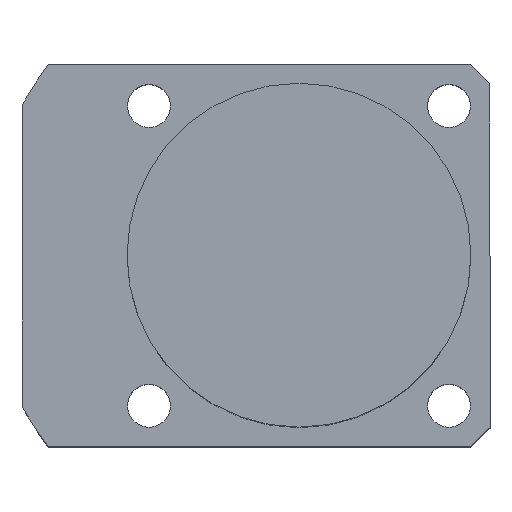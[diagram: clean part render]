
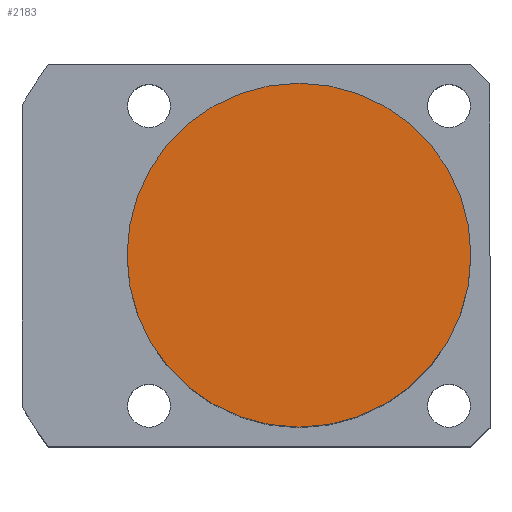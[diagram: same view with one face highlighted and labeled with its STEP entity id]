
A CAD part, top view. The second image highlights one B-rep face of the part: STEP entity #2183.
In plain terms, the highlighted planar face has unit normal (0, 0, 1).
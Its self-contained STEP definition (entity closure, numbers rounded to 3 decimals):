
#67 = VERTEX_POINT ( 'NONE', #732 ) ;
#342 = PLANE ( 'NONE',  #1033 ) ;
#369 = VERTEX_POINT ( 'NONE', #3731 ) ;
#378 = DIRECTION ( 'NONE',  ( 0., 0., 1. ) ) ;
#732 = CARTESIAN_POINT ( 'NONE',  ( -18., 0., 48.5 ) ) ;
#779 = EDGE_CURVE ( 'NONE', #369, #67, #897, .T. ) ;
#897 = CIRCLE ( 'NONE', #3293, 18. ) ;
#1033 = AXIS2_PLACEMENT_3D ( 'NONE', #2208, #1284, #3462 ) ;
#1256 = CIRCLE ( 'NONE', #2257, 18. ) ;
#1284 = DIRECTION ( 'NONE',  ( 0., 0., 1. ) ) ;
#1621 = ORIENTED_EDGE ( 'NONE', *, *, #3139, .T. ) ;
#1711 = DIRECTION ( 'NONE',  ( 1., 0., 0. ) ) ;
#1717 = EDGE_LOOP ( 'NONE', ( #1621, #3399 ) ) ;
#2183 = ADVANCED_FACE ( 'NONE', ( #3474 ), #342, .T. ) ;
#2208 = CARTESIAN_POINT ( 'NONE',  ( 0., 0., 48.5 ) ) ;
#2222 = CARTESIAN_POINT ( 'NONE',  ( 0., 0., 48.5 ) ) ;
#2257 = AXIS2_PLACEMENT_3D ( 'NONE', #2222, #378, #2538 ) ;
#2277 = CARTESIAN_POINT ( 'NONE',  ( 0., 0., 48.5 ) ) ;
#2538 = DIRECTION ( 'NONE',  ( 1., 0., 0. ) ) ;
#2918 = DIRECTION ( 'NONE',  ( 0., 0., 1. ) ) ;
#3139 = EDGE_CURVE ( 'NONE', #67, #369, #1256, .T. ) ;
#3293 = AXIS2_PLACEMENT_3D ( 'NONE', #2277, #2918, #1711 ) ;
#3399 = ORIENTED_EDGE ( 'NONE', *, *, #779, .T. ) ;
#3462 = DIRECTION ( 'NONE',  ( 1., 0., 0. ) ) ;
#3474 = FACE_OUTER_BOUND ( 'NONE', #1717, .T. ) ;
#3731 = CARTESIAN_POINT ( 'NONE',  ( 18., 0., 48.5 ) ) ;
